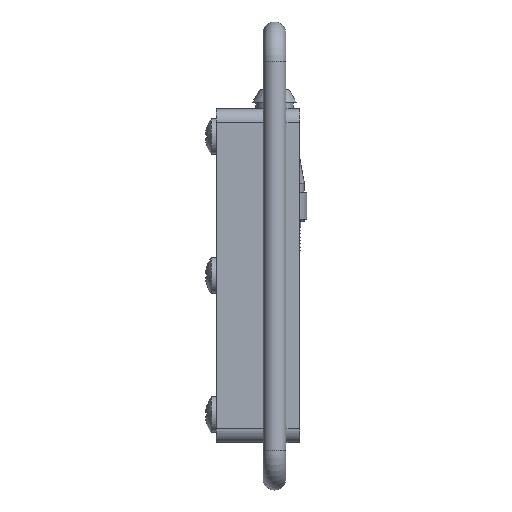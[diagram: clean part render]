
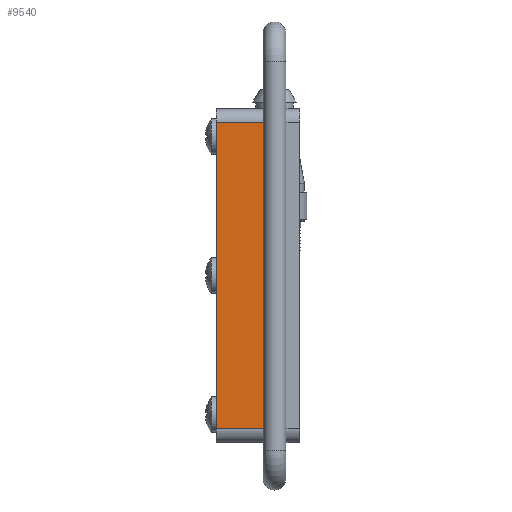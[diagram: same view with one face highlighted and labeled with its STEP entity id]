
A CAD part, left-side view. The second image highlights one B-rep face of the part: STEP entity #9540.
In plain terms, the highlighted planar face has unit normal (-1, 0, 0) as drawn and (1, 0, 0) by its records, which use the part's own axes.
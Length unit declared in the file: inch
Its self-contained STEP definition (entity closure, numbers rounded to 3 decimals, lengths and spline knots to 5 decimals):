
#386 = LINE ( 'NONE', #4907, #8911 ) ;
#418 = CARTESIAN_POINT ( 'NONE',  ( 1.5, -0.3125, 1.5 ) ) ;
#657 = EDGE_LOOP ( 'NONE', ( #9800, #4275, #8193, #11712 ) ) ;
#842 = DIRECTION ( 'NONE',  ( 0., 0., 1. ) ) ;
#1621 = DIRECTION ( 'NONE',  ( 0., 0., -1. ) ) ;
#2804 = LINE ( 'NONE', #13888, #6107 ) ;
#2868 = VERTEX_POINT ( 'NONE', #6635 ) ;
#3068 = VERTEX_POINT ( 'NONE', #8146 ) ;
#3611 = AXIS2_PLACEMENT_3D ( 'NONE', #5424, #11913, #842 ) ;
#4248 = CARTESIAN_POINT ( 'NONE',  ( 1.5, 0.3125, -1.375 ) ) ;
#4275 = ORIENTED_EDGE ( 'NONE', *, *, #12282, .T. ) ;
#4907 = CARTESIAN_POINT ( 'NONE',  ( 1.5, 0.3125, 1.5 ) ) ;
#5205 = FACE_OUTER_BOUND ( 'NONE', #657, .T. ) ;
#5339 = VERTEX_POINT ( 'NONE', #12830 ) ;
#5398 = EDGE_CURVE ( 'NONE', #5339, #6807, #386, .T. ) ;
#5424 = CARTESIAN_POINT ( 'NONE',  ( 1.5, 0.3125, 1.5 ) ) ;
#5830 = EDGE_CURVE ( 'NONE', #5339, #3068, #2804, .T. ) ;
#5892 = LINE ( 'NONE', #418, #8097 ) ;
#6107 = VECTOR ( 'NONE', #8342, 39.37008 ) ;
#6635 = CARTESIAN_POINT ( 'NONE',  ( 1.5, -0.3125, -1.375 ) ) ;
#6807 = VERTEX_POINT ( 'NONE', #4248 ) ;
#7406 = EDGE_CURVE ( 'NONE', #3068, #2868, #5892, .T. ) ;
#7626 = VECTOR ( 'NONE', #12569, 39.37008 ) ;
#8097 = VECTOR ( 'NONE', #13673, 39.37008 ) ;
#8101 = CARTESIAN_POINT ( 'NONE',  ( 1.5, 0.3125, -1.375 ) ) ;
#8146 = CARTESIAN_POINT ( 'NONE',  ( 1.5, -0.3125, 1.375 ) ) ;
#8193 = ORIENTED_EDGE ( 'NONE', *, *, #5398, .F. ) ;
#8342 = DIRECTION ( 'NONE',  ( 0., -1., 0. ) ) ;
#8911 = VECTOR ( 'NONE', #1621, 39.37008 ) ;
#9540 = ADVANCED_FACE ( 'NONE', ( #5205 ), #9798, .F. ) ;
#9798 = PLANE ( 'NONE',  #3611 ) ;
#9800 = ORIENTED_EDGE ( 'NONE', *, *, #7406, .T. ) ;
#10296 = LINE ( 'NONE', #8101, #7626 ) ;
#11712 = ORIENTED_EDGE ( 'NONE', *, *, #5830, .T. ) ;
#11913 = DIRECTION ( 'NONE',  ( -1., 0., 0. ) ) ;
#12282 = EDGE_CURVE ( 'NONE', #2868, #6807, #10296, .T. ) ;
#12569 = DIRECTION ( 'NONE',  ( 0., 1., 0. ) ) ;
#12830 = CARTESIAN_POINT ( 'NONE',  ( 1.5, 0.3125, 1.375 ) ) ;
#13673 = DIRECTION ( 'NONE',  ( 0., 0., -1. ) ) ;
#13888 = CARTESIAN_POINT ( 'NONE',  ( 1.5, 0.3125, 1.375 ) ) ;
